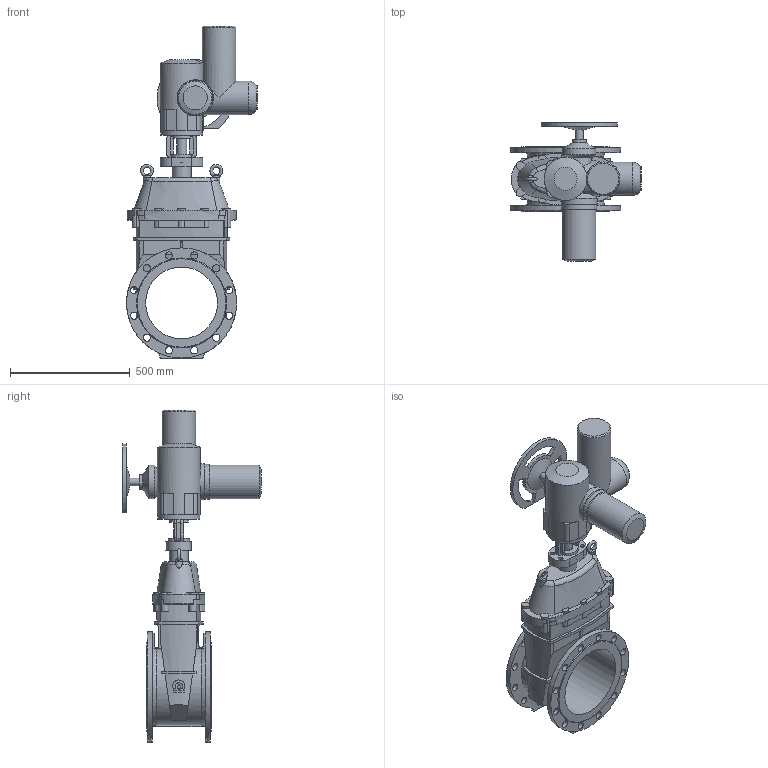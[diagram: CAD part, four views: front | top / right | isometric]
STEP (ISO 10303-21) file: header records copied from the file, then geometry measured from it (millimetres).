
FILE_DESCRIPTION(('STEP AP203'), '1');
FILE_NAME('青溻桄赅 47GV.M DN300 + MT903.A30', '', ('UNSPECIFIED'), ('UNSPECIFIED'), 'ASCON STEP Converter 1.6', 'ASCON Math Kernel', '');
FILE_SCHEMA(('CONFIG_CONTROL_DESIGN'));
Length unit declared in the file: millimetre
Bounding box: 547 x 578 x 1386.5 mm (x, y, z)
Volume: 53208719 mm3; surface area: 2327721.6 mm2
Topology: 1 solids, 1 shells, 403 faces, 1104 edges, 729 vertices
Faces by surface type: plane 196, cylinder 171, cone 21, bspline 12, torus 3
Full cylindrical faces by diameter (mm): 14 x4, 18 x8, 30 x25, 32 x1, 36 x1, 42 x1, 43 x1, 46 x1, 60 x1, 79 x1, 100 x2, 106 x1, 140 x4, 147 x1, 151 x1, 175 x1, 300 x1, 460 x2
Entity records: 37240 total; most frequent: CARTESIAN_POINT 23939, ORIENTED_EDGE 2060, DIRECTION 2034, EDGE_CURVE 1030, AXIS2_PLACEMENT_3D 787, VERTEX_POINT 727, EDGE_LOOP 569, LINE 460
